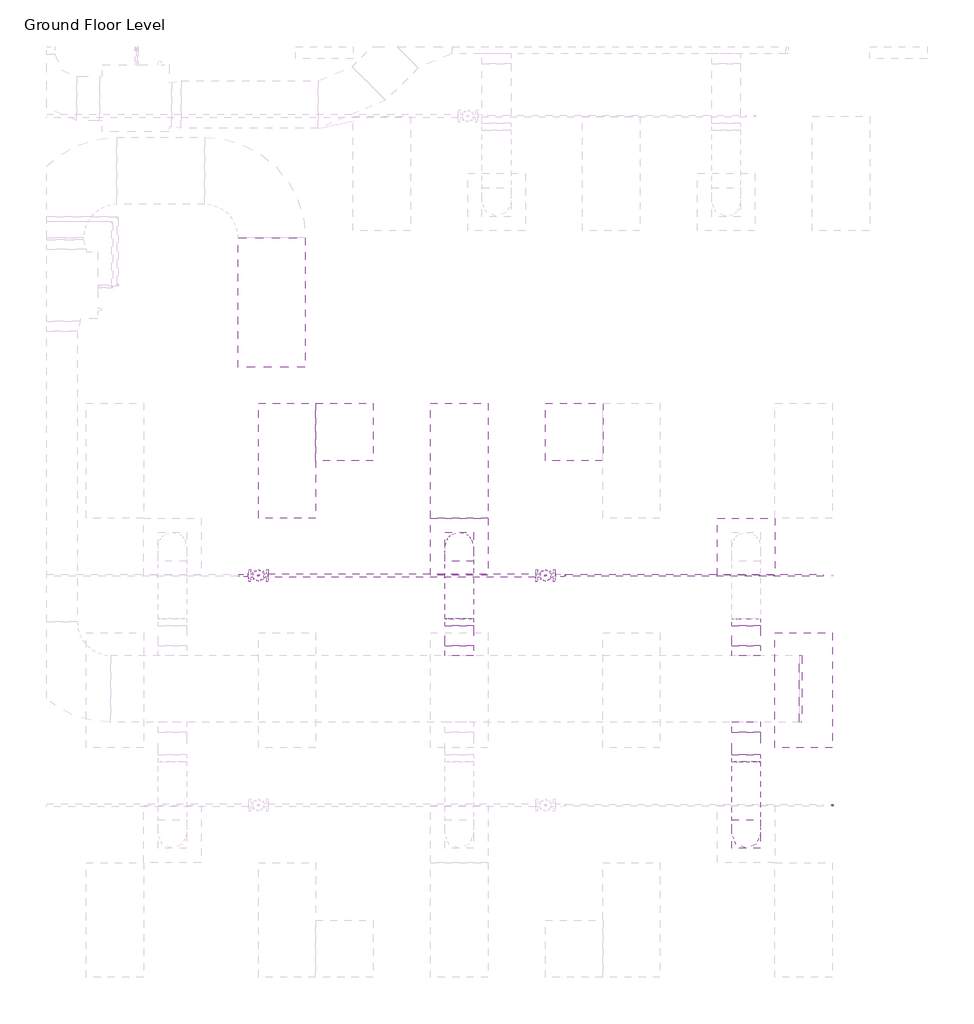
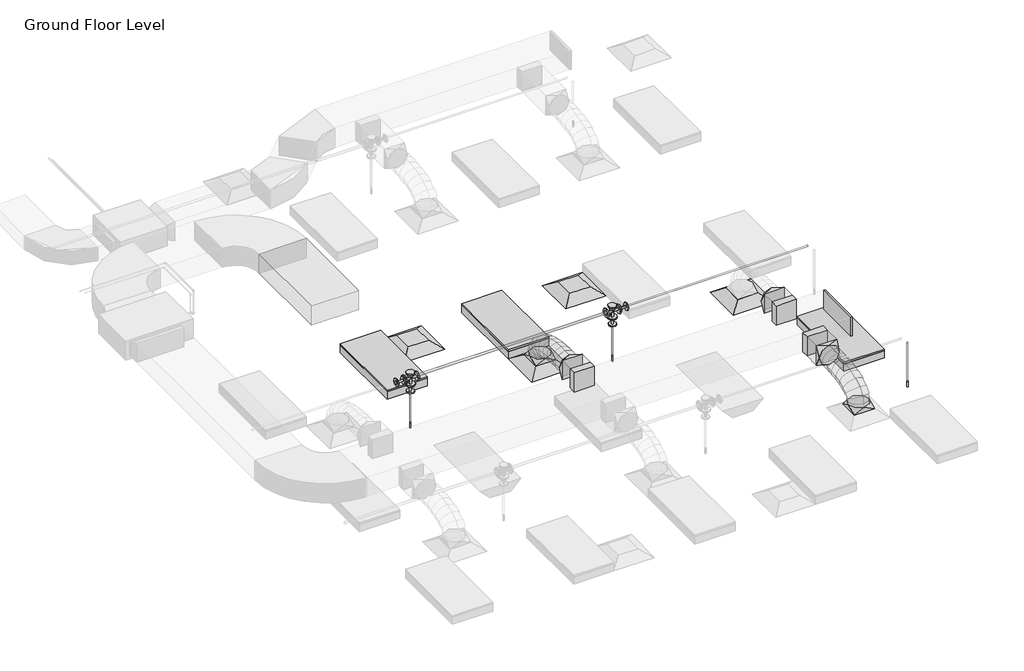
# One storey, part 32 of 74: 9 duct fittings, 6 duct segments, 6 pipe fittings, 5 pipe segments, 4 air terminals, 3 fire suppression terminals, 3 light fixtures.
"""IFC4 building model written with IfcOpenShell, lengths in millimetres."""

from ifc_helpers import new_model, si_unit, point, frame, frame_2d, origin, place, context, project, spatial, polyline, circle_curve, ellipse_curve, trimmed, segment, composite_curve, outline, extrude, transform, mapped, element, save
from ifc_brep_helpers import plane_surface, cylinder_surface, advanced_brep
from components import m_return_diffuser_600_x_600_face_300_x_300_connection_ff221211, m_rectangular_endcap_standard_7d4e98f4, m_rectangular_takeoff_standard_cb0ccb98, m_rectangular_takeoff_standard_2be5eba1, m_rectangular_to_round_transition_angle_45_degree_641efff0, m_sprinkler_dry_pendent_hosted_15_mm_dry_pendent_9bda8e11, m_troffer_light_parabolic_rectangular1_0600x1200mm_4_lamp_86473d4a, m_reducer_flanged_cs_class_150_standard_ccf252ad, m_tee_round_base_flanged_cs_class_150_standard_7e5987a1

model = new_model("IFC4")

# Units and contexts
model_context = context("Model", 3, world=origin())
ifc_project = project(units=[si_unit("LENGTHUNIT", "METRE", prefix="MILLI")], contexts=[model_context])

# Site, building, storey
site = spatial("IfcSite", under=ifc_project)
building = spatial("IfcBuilding", under=site)
storey = spatial("IfcBuildingStorey", under=building, Name="Ground Floor Level", Elevation=900.0)

# Air terminals
placement = place(None, origin())
m_return_diffuser_600_x_600_face_300_x_300_connection_shape = m_return_diffuser_600_x_600_face_300_x_300_connection_ff221211(model_context)
element("IfcAirTerminal", 1, ObjectType="M_Return Diffuser : 600 x 600 Face 300 x 300 Connection", at=placement, inside=storey, context=model_context, shape_type="MappedRepresentation", body=[
    mapped(m_return_diffuser_600_x_600_face_300_x_300_connection_shape, transform((9152.7672395, -9464.7846466, 3650.0), x_axis=(1.0, 0.0, 0.0), y_axis=(0.0, 1.0, 0.0), z_axis=(0.0, 0.0, 1.0))),
])
element("IfcAirTerminal", 2, ObjectType="M_Return Diffuser : 600 x 600 Face 300 x 300 Connection", at=placement, inside=storey, context=model_context, shape_type="MappedRepresentation", body=[
    mapped(m_return_diffuser_600_x_600_face_300_x_300_connection_shape, transform((11552.7672395, -9464.7846466, 3650.0), x_axis=(1.0, 0.0, 0.0), y_axis=(0.0, 1.0, 0.0), z_axis=(0.0, 0.0, 1.0))),
])
element("IfcAirTerminal", 3, ObjectType="M_Supply Diffuser : 600 x 600 Face 300 x 300 Connection", at=placement, inside=storey, context=model_context, shape_type="MappedRepresentation", body=[
    mapped(m_return_diffuser_600_x_600_face_300_x_300_connection_shape, transform((10352.7672395, -10664.7846466, 3650.0), x_axis=(1.0, 0.0, 0.0), y_axis=(0.0, 1.0, 0.0), z_axis=(0.0, 0.0, 1.0))),
])
element("IfcAirTerminal", 4, ObjectType="M_Supply Diffuser : 600 x 600 Face 300 x 300 Connection", at=placement, inside=storey, context=model_context, shape_type="MappedRepresentation", body=[
    mapped(m_return_diffuser_600_x_600_face_300_x_300_connection_shape, transform((13352.7672395, -10664.7846466, 3650.0), x_axis=(1.0, 0.0, 0.0), y_axis=(0.0, 1.0, 0.0), z_axis=(0.0, 0.0, 1.0))),
])

# Duct fittings
m_rectangular_endcap_standard_shape = m_rectangular_endcap_standard_7d4e98f4(model_context)
element("IfcDuctFitting", 5, ObjectType="M_Rectangular Endcap : Standard", at=placement, inside=storey, context=model_context, shape_type="MappedRepresentation", body=[
    mapped(m_rectangular_endcap_standard_shape, transform((13909.9139492, -12149.3358641, 4099.9875), x_axis=(1.0, 0.0, 0.0), y_axis=(0.0, 1.0, 0.0), z_axis=(0.0, 0.0, 1.0))),
])
m_rectangular_takeoff_standard_shape = m_rectangular_takeoff_standard_cb0ccb98(model_context)
element("IfcDuctFitting", 6, ObjectType="M_Rectangular Takeoff : Standard", at=placement, inside=storey, context=model_context, shape_type="MappedRepresentation", body=[
    mapped(m_rectangular_takeoff_standard_shape, transform((13352.7672395, -11799.3358641, 4099.9875), x_axis=(0.0, 1.0, 0.0), y_axis=(1.0, 0.0, 0.0), z_axis=(0.0, 0.0, -1.0))),
])
element("IfcDuctFitting", 7, ObjectType="M_Rectangular Takeoff : Standard", at=placement, inside=storey, context=model_context, shape_type="MappedRepresentation", body=[
    mapped(m_rectangular_takeoff_standard_shape, transform((10352.7672395, -11799.3358641, 4099.9875), x_axis=(0.0, 1.0, 0.0), y_axis=(1.0, 0.0, 0.0), z_axis=(0.0, 0.0, -1.0))),
])
m_rectangular_takeoff_standard_2_shape = m_rectangular_takeoff_standard_2be5eba1(model_context)
element("IfcDuctFitting", 8, ObjectType="M_Rectangular Takeoff : Standard", at=placement, inside=storey, context=model_context, shape_type="MappedRepresentation", body=[
    mapped(m_rectangular_takeoff_standard_2_shape, transform((13352.7672395, -12499.3358641, 4099.9875), x_axis=(0.0, -1.0, 0.0), y_axis=(-1.0, 0.0, 0.0), z_axis=(0.0, 0.0, -1.0))),
])
m_rectangular_to_round_transition_angle_45_degree_shape = m_rectangular_to_round_transition_angle_45_degree_641efff0(model_context)
element("IfcDuctFitting", 9, ObjectType="M_Rectangular to Round Transition - Angle : 45 Degree", at=placement, inside=storey, context=model_context, shape_type="MappedRepresentation", body=[
    mapped(m_rectangular_to_round_transition_angle_45_degree_shape, transform((10352.7672395, -10664.7846466, 3751.6), x_axis=(0.0, 0.0, 1.0), y_axis=(-1.0, 0.0, 0.0), z_axis=(0.0, -1.0, 0.0))),
])
element("IfcDuctFitting", 10, ObjectType="M_Rectangular to Round Transition - Angle : 45 Degree", at=placement, inside=storey, context=model_context, shape_type="MappedRepresentation", body=[
    mapped(m_rectangular_to_round_transition_angle_45_degree_shape, transform((10352.7672395, -11492.1330779, 4099.9875), x_axis=(0.0, 1.0, 0.0), y_axis=(-1.0, 0.0, 0.0), z_axis=(0.0, 0.0, 1.0))),
])
element("IfcDuctFitting", 11, ObjectType="M_Rectangular to Round Transition - Angle : 45 Degree", at=placement, inside=storey, context=model_context, shape_type="MappedRepresentation", body=[
    mapped(m_rectangular_to_round_transition_angle_45_degree_shape, transform((13352.7672395, -11492.1330779, 4099.9875), x_axis=(0.0, 1.0, 0.0), y_axis=(-1.0, 0.0, 0.0), z_axis=(0.0, 0.0, 1.0))),
])
element("IfcDuctFitting", 12, ObjectType="M_Rectangular to Round Transition - Angle : 45 Degree", at=placement, inside=storey, context=model_context, shape_type="MappedRepresentation", body=[
    mapped(m_rectangular_to_round_transition_angle_45_degree_shape, transform((13352.7672395, -13664.7846466, 3751.6), x_axis=(0.0, 0.0, 1.0), y_axis=(-1.0, 0.0, 0.0), z_axis=(0.0, -1.0, 0.0))),
])
element("IfcDuctFitting", 13, ObjectType="M_Rectangular to Round Transition - Angle : 45 Degree", at=placement, inside=storey, context=model_context, shape_type="MappedRepresentation", body=[
    mapped(m_rectangular_to_round_transition_angle_45_degree_shape, transform((13352.7672395, -12837.4362153, 4099.9875), x_axis=(0.0, -1.0, 0.0), y_axis=(1.0, 0.0, 0.0), z_axis=(0.0, 0.0, 1.0))),
])

# Duct segments
element("IfcDuctSegment", 14, ObjectType="Flex - Round", at=placement, inside=storey, context=model_context, shape_type="AdvancedBrep", body=[
    advanced_brep(
    [(10502.7672395, -10664.7846466, 3826.6), (10352.7672395, -10814.7846466, 3826.6), (10202.7672395, -10664.7846466, 3826.6), (10352.7672395, -10514.7846466, 3826.6), (10502.7672395, -10664.7846466, 3857.9382361), (10352.7672395, -10814.7846466, 3832.2943726), (10202.7672395, -10664.7846466, 3857.9382361), (10352.7672395, -10514.7846466, 3883.5820996), (10502.7672395, -10681.8009258, 3906.2508008), (10352.7672395, -10815.5381175, 3834.4336246), (10202.7672395, -10681.8009258, 3906.2508008), (10352.7672395, -10548.0637341, 3978.0679769), (10502.7672395, -10728.9857498, 3968.710741), (10352.7672395, -10833.1895095, 3857.7992917), (10202.7672395, -10728.9857498, 3968.710741), (10352.7672395, -10624.78199, 4079.6221903), (10502.7672395, -10800.5430984, 4016.0679312), (10352.7672395, -10869.4737825, 3881.8124958), (10202.7672395, -10800.5430984, 4016.0679312), (10352.7672395, -10731.6124143, 4150.3233665), (10502.7672395, -10890.6769515, 4050.4104815), (10352.7672395, -10934.2340294, 3906.4872652), (10202.7672395, -10890.6769515, 4050.4104815), (10352.7672395, -10847.1198737, 4194.3336978), (10502.7672395, -10993.591289, 4073.8265025), (10352.7672395, -11020.1487195, 3926.0353694), (10202.7672395, -10993.591289, 4073.8265025), (10352.7672395, -10967.0338584, 4221.6176356), (10502.7672395, -11103.4900905, 4088.4041045), (10352.7672395, -11118.6379564, 3939.0995418), (10202.7672395, -11103.4900905, 4088.4041045), (10352.7672395, -11088.3422246, 4237.7086671), (10502.7672395, -11214.5773359, 4096.2313978), (10352.7672395, -11222.0803018, 3946.3881695), (10202.7672395, -11214.5773359, 4096.2313978), (10352.7672395, -11207.0743701, 4246.074626), (10502.7672395, -11321.0570051, 4099.3964928), (10352.7672395, -11323.7471101, 3949.4102029), (10202.7672395, -11321.0570051, 4099.3964928), (10352.7672395, -11318.3669002, 4249.3827828), (10502.7672395, -11417.1330779, 4099.9875), (10352.7672395, -11416.2103779, 4249.9846621), (10202.7672395, -11417.1330779, 4099.9875), (10352.7672395, -11418.0557779, 3949.9903379)],
    [
        (0, 1, circle_curve(frame((10352.7672395, -10664.7846466, 3826.6), z_axis=(0.0, 0.0, -1.0), x_axis=(1.0, 0.0, 0.0)), 150.0)),
        (1, 2, circle_curve(frame((10352.7672395, -10664.7846466, 3826.6), z_axis=(0.0, 0.0, -1.0), x_axis=(1.0, 0.0, 0.0)), 150.0)),
        (2, 3, circle_curve(frame((10352.7672395, -10664.7846466, 3826.6), z_axis=(0.0, 0.0, -1.0), x_axis=(1.0, 0.0, 0.0)), 150.0)),
        (3, 0, circle_curve(frame((10352.7672395, -10664.7846466, 3826.6), z_axis=(0.0, 0.0, -1.0), x_axis=(1.0, 0.0, 0.0)), 150.0)),
        (0, 4),
        (4, 5, ellipse_curve(frame((10352.7672395, -10664.7846466, 3857.9382361), z_axis=(0.0, 0.16851424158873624, -0.9856992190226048), x_axis=(0.0, -0.9856992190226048, -0.16851424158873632)), 152.1762391, 150.0)),
        (5, 1),
        (5, 6, ellipse_curve(frame((10352.7672395, -10664.7846466, 3857.9382361), z_axis=(0.0, 0.16851424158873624, -0.9856992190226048), x_axis=(0.0, -0.9856992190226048, -0.16851424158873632)), 152.1762391, 150.0)),
        (6, 2),
        (6, 7, ellipse_curve(frame((10352.7672395, -10664.7846466, 3857.9382361), z_axis=(0.0, 0.16851424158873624, -0.9856992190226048), x_axis=(0.0, -0.9856992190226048, -0.16851424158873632)), 152.1762391, 150.0)),
        (7, 3),
        (7, 4, ellipse_curve(frame((10352.7672395, -10664.7846466, 3857.9382361), z_axis=(0.0, 0.16851424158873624, -0.9856992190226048), x_axis=(0.0, -0.9856992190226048, -0.16851424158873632)), 152.1762391, 150.0)),
        (4, 8),
        (8, 9, ellipse_curve(frame((10352.7672395, -10681.8009258, 3906.2508008), z_axis=(0.0, 0.4731028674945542, -0.8810071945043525), x_axis=(0.0, -0.8810071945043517, -0.47310286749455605)), 151.80034, 150.0)),
        (9, 5),
        (9, 10, ellipse_curve(frame((10352.7672395, -10681.8009258, 3906.2508008), z_axis=(0.0, 0.4731028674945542, -0.8810071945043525), x_axis=(0.0, -0.8810071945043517, -0.47310286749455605)), 151.80034, 150.0)),
        (10, 6),
        (10, 11, ellipse_curve(frame((10352.7672395, -10681.8009258, 3906.2508008), z_axis=(0.0, 0.4731028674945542, -0.8810071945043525), x_axis=(0.0, -0.8810071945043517, -0.47310286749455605)), 151.80034, 150.0)),
        (11, 7),
        (11, 8, ellipse_curve(frame((10352.7672395, -10681.8009258, 3906.2508008), z_axis=(0.0, 0.4731028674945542, -0.8810071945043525), x_axis=(0.0, -0.8810071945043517, -0.47310286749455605)), 151.80034, 150.0)),
        (8, 12),
        (12, 13, ellipse_curve(frame((10352.7672395, -10728.9857498, 3968.710741), z_axis=(0.0, 0.7288014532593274, -0.6847250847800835), x_axis=(0.0, -0.6847250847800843, -0.7288014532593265)), 152.1833536, 150.0)),
        (13, 9),
        (13, 14, ellipse_curve(frame((10352.7672395, -10728.9857498, 3968.710741), z_axis=(0.0, 0.7288014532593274, -0.6847250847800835), x_axis=(0.0, -0.6847250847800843, -0.7288014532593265)), 152.1833536, 150.0)),
        (14, 10),
        (14, 15, ellipse_curve(frame((10352.7672395, -10728.9857498, 3968.710741), z_axis=(0.0, 0.7288014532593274, -0.6847250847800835), x_axis=(0.0, -0.6847250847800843, -0.7288014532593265)), 152.1833536, 150.0)),
        (15, 11),
        (15, 12, ellipse_curve(frame((10352.7672395, -10728.9857498, 3968.710741), z_axis=(0.0, 0.7288014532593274, -0.6847250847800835), x_axis=(0.0, -0.6847250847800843, -0.7288014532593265)), 152.1833536, 150.0)),
        (12, 16),
        (16, 17, ellipse_curve(frame((10352.7672395, -10800.5430984, 4016.0679312), z_axis=(0.0, 0.8895974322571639, -0.45674545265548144), x_axis=(0.0, -0.45674545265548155, -0.889597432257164)), 150.9170671, 150.0)),
        (17, 13),
        (17, 18, ellipse_curve(frame((10352.7672395, -10800.5430984, 4016.0679312), z_axis=(0.0, 0.8895974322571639, -0.45674545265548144), x_axis=(0.0, -0.45674545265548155, -0.889597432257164)), 150.9170671, 150.0)),
        (18, 14),
        (18, 19, ellipse_curve(frame((10352.7672395, -10800.5430984, 4016.0679312), z_axis=(0.0, 0.8895974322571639, -0.45674545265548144), x_axis=(0.0, -0.45674545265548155, -0.889597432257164)), 150.9170671, 150.0)),
        (19, 15),
        (19, 16, ellipse_curve(frame((10352.7672395, -10800.5430984, 4016.0679312), z_axis=(0.0, 0.8895974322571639, -0.45674545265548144), x_axis=(0.0, -0.45674545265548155, -0.889597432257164)), 150.9170671, 150.0)),
        (16, 20),
        (20, 21, ellipse_curve(frame((10352.7672395, -10890.6769515, 4050.4104815), z_axis=(0.0, 0.9571277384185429, -0.28966617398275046), x_axis=(0.0, -0.2896661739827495, -0.9571277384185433)), 150.3699146, 150.0)),
        (21, 17),
        (21, 22, ellipse_curve(frame((10352.7672395, -10890.6769515, 4050.4104815), z_axis=(0.0, 0.9571277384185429, -0.28966617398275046), x_axis=(0.0, -0.2896661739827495, -0.9571277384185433)), 150.3699146, 150.0)),
        (22, 18),
        (22, 23, ellipse_curve(frame((10352.7672395, -10890.6769515, 4050.4104815), z_axis=(0.0, 0.9571277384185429, -0.28966617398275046), x_axis=(0.0, -0.2896661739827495, -0.9571277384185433)), 150.3699146, 150.0)),
        (23, 19),
        (23, 20, ellipse_curve(frame((10352.7672395, -10890.6769515, 4050.4104815), z_axis=(0.0, 0.9571277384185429, -0.28966617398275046), x_axis=(0.0, -0.2896661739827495, -0.9571277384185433)), 150.3699146, 150.0)),
        (20, 24),
        (24, 25, ellipse_curve(frame((10352.7672395, -10993.591289, 4073.8265025), z_axis=(0.0, 0.9842355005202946, -0.17686288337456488), x_axis=(0.0, -0.17686288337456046, -0.9842355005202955)), 150.1583036, 150.0)),
        (25, 21),
        (25, 26, ellipse_curve(frame((10352.7672395, -10993.591289, 4073.8265025), z_axis=(0.0, 0.9842355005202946, -0.17686288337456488), x_axis=(0.0, -0.17686288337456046, -0.9842355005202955)), 150.1583036, 150.0)),
        (26, 22),
        (26, 27, ellipse_curve(frame((10352.7672395, -10993.591289, 4073.8265025), z_axis=(0.0, 0.9842355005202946, -0.17686288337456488), x_axis=(0.0, -0.17686288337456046, -0.9842355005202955)), 150.1583036, 150.0)),
        (27, 23),
        (27, 24, ellipse_curve(frame((10352.7672395, -10993.591289, 4073.8265025), z_axis=(0.0, 0.9842355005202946, -0.17686288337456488), x_axis=(0.0, -0.17686288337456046, -0.9842355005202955)), 150.1583036, 150.0)),
        (24, 28),
        (28, 29, ellipse_curve(frame((10352.7672395, -11103.4900905, 4088.4041045), z_axis=(0.0, 0.9948927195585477, -0.10093798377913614), x_axis=(0.0, -0.1009379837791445, -0.9948927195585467)), 150.0710174, 150.0)),
        (29, 25),
        (29, 30, ellipse_curve(frame((10352.7672395, -11103.4900905, 4088.4041045), z_axis=(0.0, 0.9948927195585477, -0.10093798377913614), x_axis=(0.0, -0.1009379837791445, -0.9948927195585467)), 150.0710174, 150.0)),
        (30, 26),
        (30, 31, ellipse_curve(frame((10352.7672395, -11103.4900905, 4088.4041045), z_axis=(0.0, 0.9948927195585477, -0.10093798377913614), x_axis=(0.0, -0.1009379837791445, -0.9948927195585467)), 150.0710174, 150.0)),
        (31, 27),
        (31, 28, ellipse_curve(frame((10352.7672395, -11103.4900905, 4088.4041045), z_axis=(0.0, 0.9948927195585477, -0.10093798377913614), x_axis=(0.0, -0.1009379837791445, -0.9948927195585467)), 150.0710174, 150.0)),
        (28, 32),
        (32, 33, ellipse_curve(frame((10352.7672395, -11214.5773359, 4096.2313978), z_axis=(0.0, 0.9987487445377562, -0.05000945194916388), x_axis=(0.0, -0.05000945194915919, -0.9987487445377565)), 150.0309553, 150.0)),
        (33, 29),
        (33, 34, ellipse_curve(frame((10352.7672395, -11214.5773359, 4096.2313978), z_axis=(0.0, 0.9987487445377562, -0.05000945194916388), x_axis=(0.0, -0.05000945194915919, -0.9987487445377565)), 150.0309553, 150.0)),
        (34, 30),
        (34, 35, ellipse_curve(frame((10352.7672395, -11214.5773359, 4096.2313978), z_axis=(0.0, 0.9987487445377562, -0.05000945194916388), x_axis=(0.0, -0.05000945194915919, -0.9987487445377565)), 150.0309553, 150.0)),
        (35, 31),
        (35, 32, ellipse_curve(frame((10352.7672395, -11214.5773359, 4096.2313978), z_axis=(0.0, 0.9987487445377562, -0.05000945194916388), x_axis=(0.0, -0.05000945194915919, -0.9987487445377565)), 150.0309553, 150.0)),
        (32, 36),
        (36, 37, ellipse_curve(frame((10352.7672395, -11321.0570051, 4099.3964928), z_axis=(0.0, 0.9998391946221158, -0.017932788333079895), x_axis=(0.0, -0.017932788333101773, -0.9998391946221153)), 150.0104124, 150.0)),
        (37, 33),
        (37, 38, ellipse_curve(frame((10352.7672395, -11321.0570051, 4099.3964928), z_axis=(0.0, 0.9998391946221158, -0.017932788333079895), x_axis=(0.0, -0.017932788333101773, -0.9998391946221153)), 150.0104124, 150.0)),
        (38, 34),
        (38, 39, ellipse_curve(frame((10352.7672395, -11321.0570051, 4099.3964928), z_axis=(0.0, 0.9998391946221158, -0.017932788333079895), x_axis=(0.0, -0.017932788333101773, -0.9998391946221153)), 150.0104124, 150.0)),
        (39, 35),
        (39, 36, ellipse_curve(frame((10352.7672395, -11321.0570051, 4099.3964928), z_axis=(0.0, 0.9998391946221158, -0.017932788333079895), x_axis=(0.0, -0.017932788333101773, -0.9998391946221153)), 150.0104124, 150.0)),
        (40, 41, circle_curve(frame((10352.7672395, -11417.1330779, 4099.9875), z_axis=(0.0, -0.999981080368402, 0.0061513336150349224), x_axis=(1.0, 0.0, 0.0)), 150.0)),
        (41, 42, circle_curve(frame((10352.7672395, -11417.1330779, 4099.9875), z_axis=(0.0, -0.999981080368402, 0.0061513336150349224), x_axis=(1.0, 0.0, 0.0)), 150.0)),
        (42, 43, circle_curve(frame((10352.7672395, -11417.1330779, 4099.9875), z_axis=(0.0, -0.999981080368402, 0.0061513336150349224), x_axis=(1.0, 0.0, 0.0)), 150.0)),
        (43, 40, circle_curve(frame((10352.7672395, -11417.1330779, 4099.9875), z_axis=(0.0, -0.999981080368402, 0.0061513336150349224), x_axis=(1.0, 0.0, 0.0)), 150.0)),
        (36, 40),
        (43, 37),
        (42, 38),
        (41, 39),
    ],
    [
        plane_surface(frame((10352.7672395, -10814.7846466, 3826.6), z_axis=(0.0, 0.0, -1.0), x_axis=(1.0, 0.0, 0.0))),
        cylinder_surface(frame((10352.7672395, -10664.7846466, 3826.6), z_axis=(0.0, 0.0, -1.0), x_axis=(1.0, 0.0, 0.0)), 150.0),
        cylinder_surface(frame((10352.7672395, -10664.7846466, 3857.9382361), z_axis=(0.0, 0.3322087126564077, -0.943205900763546), x_axis=(1.0, 0.0, 0.0)), 150.0),
        cylinder_surface(frame((10352.7672395, -10681.8009258, 3906.2508008), z_axis=(0.0, 0.6027750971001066, -0.797911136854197), x_axis=(1.0, 0.0, 0.0)), 150.0),
        cylinder_surface(frame((10352.7672395, -10728.9857498, 3968.710741), z_axis=(0.0, 0.8339157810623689, -0.5518917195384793), x_axis=(1.0, 0.0, 0.0)), 150.0),
        cylinder_surface(frame((10352.7672395, -10800.5430984, 4016.0679312), z_axis=(0.0, 0.9344675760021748, -0.3560482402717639), x_axis=(1.0, 0.0, 0.0)), 150.0),
        cylinder_surface(frame((10352.7672395, -10890.6769515, 4050.4104815), z_axis=(0.0, 0.9750787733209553, -0.22185893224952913), x_axis=(1.0, 0.0, 0.0)), 150.0),
        cylinder_surface(frame((10352.7672395, -10993.591289, 4073.8265025), z_axis=(0.0, 0.9913169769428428, -0.13149392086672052), x_axis=(1.0, 0.0, 0.0)), 150.0),
        cylinder_surface(frame((10352.7672395, -11103.4900905, 4088.4041045), z_axis=(0.0, 0.9975268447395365, -0.07028651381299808), x_axis=(1.0, 0.0, 0.0)), 150.0),
        cylinder_surface(frame((10352.7672395, -11214.5773359, 4096.2313978), z_axis=(0.0, 0.999558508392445, -0.029711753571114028), x_axis=(1.0, 0.0, 0.0)), 150.0),
        plane_surface(frame((10352.7672395, -11418.0557779, 3949.9903379), z_axis=(0.0, -0.999981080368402, 0.006151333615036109), x_axis=(1.0, 0.0, 0.0))),
        cylinder_surface(frame((10352.7672395, -11321.0570051, 4099.3964928), z_axis=(0.0, 0.999981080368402, -0.0061513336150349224), x_axis=(1.0, 0.0, 0.0)), 150.0),
    ],
    [
        (0, [[1, 2, 3, 4]]),
        (1, [[-1, 5, 6, 7]]),
        (1, [[-2, -7, 8, 9]]),
        (1, [[-3, -9, 10, 11]]),
        (1, [[-4, -11, 12, -5]]),
        (2, [[-6, 13, 14, 15]]),
        (2, [[-8, -15, 16, 17]]),
        (2, [[-10, -17, 18, 19]]),
        (2, [[-12, -19, 20, -13]]),
        (3, [[-14, 21, 22, 23]]),
        (3, [[-16, -23, 24, 25]]),
        (3, [[-18, -25, 26, 27]]),
        (3, [[-20, -27, 28, -21]]),
        (4, [[-22, 29, 30, 31]]),
        (4, [[-24, -31, 32, 33]]),
        (4, [[-26, -33, 34, 35]]),
        (4, [[-28, -35, 36, -29]]),
        (5, [[-30, 37, 38, 39]]),
        (5, [[-32, -39, 40, 41]]),
        (5, [[-34, -41, 42, 43]]),
        (5, [[-36, -43, 44, -37]]),
        (6, [[-38, 45, 46, 47]]),
        (6, [[-40, -47, 48, 49]]),
        (6, [[-42, -49, 50, 51]]),
        (6, [[-44, -51, 52, -45]]),
        (7, [[-46, 53, 54, 55]]),
        (7, [[-48, -55, 56, 57]]),
        (7, [[-50, -57, 58, 59]]),
        (7, [[-52, -59, 60, -53]]),
        (8, [[-54, 61, 62, 63]]),
        (8, [[-56, -63, 64, 65]]),
        (8, [[-58, -65, 66, 67]]),
        (8, [[-60, -67, 68, -61]]),
        (9, [[-62, 69, 70, 71]]),
        (9, [[-64, -71, 72, 73]]),
        (9, [[-66, -73, 74, 75]]),
        (9, [[-68, -75, 76, -69]]),
        (10, [[77, 78, 79, 80]]),
        (11, [[-70, 81, -80, 82]]),
        (11, [[-72, -82, -79, 83]]),
        (11, [[-74, -83, -78, 84]]),
        (11, [[-76, -84, -77, -81]]),
    ],
),
])
element("IfcDuctSegment", 15, ObjectType="Flex - Round", at=placement, inside=storey, context=model_context, shape_type="AdvancedBrep", body=[
    advanced_brep(
    [(13502.7672395, -13664.7846466, 3826.6), (13352.7672395, -13814.7846466, 3826.6), (13202.7672395, -13664.7846466, 3826.6), (13352.7672395, -13514.7846466, 3826.6), (13502.7672395, -13664.7846466, 3857.9382361), (13352.7672395, -13814.7846466, 3883.5820996), (13202.7672395, -13664.7846466, 3857.9382361), (13352.7672395, -13514.7846466, 3832.2943726), (13502.7672395, -13647.7683675, 3906.2508008), (13352.7672395, -13781.5055592, 3978.0679769), (13202.7672395, -13647.7683675, 3906.2508008), (13352.7672395, -13514.0311758, 3834.4336246), (13502.7672395, -13600.5835435, 3968.710741), (13352.7672395, -13704.7873032, 4079.6221903), (13202.7672395, -13600.5835435, 3968.710741), (13352.7672395, -13496.3797837, 3857.7992917), (13502.7672395, -13529.0261948, 4016.0679312), (13352.7672395, -13597.9568789, 4150.3233665), (13202.7672395, -13529.0261948, 4016.0679312), (13352.7672395, -13460.0955107, 3881.8124958), (13502.7672395, -13438.8923417, 4050.4104815), (13352.7672395, -13482.4494195, 4194.3336978), (13202.7672395, -13438.8923417, 4050.4104815), (13352.7672395, -13395.3352638, 3906.4872652), (13502.7672395, -13335.9780043, 4073.8265025), (13352.7672395, -13362.5354348, 4221.6176356), (13202.7672395, -13335.9780043, 4073.8265025), (13352.7672395, -13309.4205737, 3926.0353694), (13502.7672395, -13226.0792027, 4088.4041045), (13352.7672395, -13241.2270687, 4237.7086671), (13202.7672395, -13226.0792027, 4088.4041045), (13352.7672395, -13210.9313368, 3939.0995418), (13502.7672395, -13114.9919573, 4096.2313978), (13352.7672395, -13122.4949231, 4246.074626), (13202.7672395, -13114.9919573, 4096.2313978), (13352.7672395, -13107.4889914, 3946.3881695), (13502.7672395, -13008.5122881, 4099.3964928), (13352.7672395, -13011.2023931, 4249.3827828), (13202.7672395, -13008.5122881, 4099.3964928), (13352.7672395, -13005.8221831, 3949.4102029), (13502.7672395, -12912.4362153, 4099.9875), (13352.7672395, -12911.5135153, 3949.9903379), (13202.7672395, -12912.4362153, 4099.9875), (13352.7672395, -12913.3589154, 4249.9846621)],
    [
        (0, 1, circle_curve(frame((13352.7672395, -13664.7846466, 3826.6), z_axis=(0.0, 0.0, -1.0), x_axis=(1.0, 0.0, 0.0)), 150.0)),
        (1, 2, circle_curve(frame((13352.7672395, -13664.7846466, 3826.6), z_axis=(0.0, 0.0, -1.0), x_axis=(1.0, 0.0, 0.0)), 150.0)),
        (2, 3, circle_curve(frame((13352.7672395, -13664.7846466, 3826.6), z_axis=(0.0, 0.0, -1.0), x_axis=(1.0, 0.0, 0.0)), 150.0)),
        (3, 0, circle_curve(frame((13352.7672395, -13664.7846466, 3826.6), z_axis=(0.0, 0.0, -1.0), x_axis=(1.0, 0.0, 0.0)), 150.0)),
        (0, 4),
        (4, 5, ellipse_curve(frame((13352.7672395, -13664.7846466, 3857.9382361), z_axis=(0.0, -0.16851424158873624, -0.9856992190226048), x_axis=(0.0, 0.9856992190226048, -0.16851424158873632)), 152.1762391, 150.0)),
        (5, 1),
        (5, 6, ellipse_curve(frame((13352.7672395, -13664.7846466, 3857.9382361), z_axis=(0.0, -0.16851424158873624, -0.9856992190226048), x_axis=(0.0, 0.9856992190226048, -0.16851424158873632)), 152.1762391, 150.0)),
        (6, 2),
        (6, 7, ellipse_curve(frame((13352.7672395, -13664.7846466, 3857.9382361), z_axis=(0.0, -0.16851424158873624, -0.9856992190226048), x_axis=(0.0, 0.9856992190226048, -0.16851424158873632)), 152.1762391, 150.0)),
        (7, 3),
        (7, 4, ellipse_curve(frame((13352.7672395, -13664.7846466, 3857.9382361), z_axis=(0.0, -0.16851424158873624, -0.9856992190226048), x_axis=(0.0, 0.9856992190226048, -0.16851424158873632)), 152.1762391, 150.0)),
        (4, 8),
        (8, 9, ellipse_curve(frame((13352.7672395, -13647.7683675, 3906.2508008), z_axis=(0.0, -0.4731028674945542, -0.8810071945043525), x_axis=(0.0, 0.8810071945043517, -0.47310286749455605)), 151.80034, 150.0)),
        (9, 5),
        (9, 10, ellipse_curve(frame((13352.7672395, -13647.7683675, 3906.2508008), z_axis=(0.0, -0.4731028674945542, -0.8810071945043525), x_axis=(0.0, 0.8810071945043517, -0.47310286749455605)), 151.80034, 150.0)),
        (10, 6),
        (10, 11, ellipse_curve(frame((13352.7672395, -13647.7683675, 3906.2508008), z_axis=(0.0, -0.4731028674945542, -0.8810071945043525), x_axis=(0.0, 0.8810071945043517, -0.47310286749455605)), 151.80034, 150.0)),
        (11, 7),
        (11, 8, ellipse_curve(frame((13352.7672395, -13647.7683675, 3906.2508008), z_axis=(0.0, -0.4731028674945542, -0.8810071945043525), x_axis=(0.0, 0.8810071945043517, -0.47310286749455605)), 151.80034, 150.0)),
        (8, 12),
        (12, 13, ellipse_curve(frame((13352.7672395, -13600.5835435, 3968.710741), z_axis=(0.0, -0.728801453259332, -0.6847250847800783), x_axis=(0.0, 0.6847250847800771, -0.7288014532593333)), 152.1833536, 150.0)),
        (13, 9),
        (13, 14, ellipse_curve(frame((13352.7672395, -13600.5835435, 3968.710741), z_axis=(0.0, -0.728801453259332, -0.6847250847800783), x_axis=(0.0, 0.6847250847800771, -0.7288014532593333)), 152.1833536, 150.0)),
        (14, 10),
        (14, 15, ellipse_curve(frame((13352.7672395, -13600.5835435, 3968.710741), z_axis=(0.0, -0.728801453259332, -0.6847250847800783), x_axis=(0.0, 0.6847250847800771, -0.7288014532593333)), 152.1833536, 150.0)),
        (15, 11),
        (15, 12, ellipse_curve(frame((13352.7672395, -13600.5835435, 3968.710741), z_axis=(0.0, -0.728801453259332, -0.6847250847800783), x_axis=(0.0, 0.6847250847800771, -0.7288014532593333)), 152.1833536, 150.0)),
        (12, 16),
        (16, 17, ellipse_curve(frame((13352.7672395, -13529.0261948, 4016.0679312), z_axis=(0.0, -0.889597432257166, -0.45674545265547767), x_axis=(0.0, 0.4567454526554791, -0.8895974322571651)), 150.9170671, 150.0)),
        (17, 13),
        (17, 18, ellipse_curve(frame((13352.7672395, -13529.0261948, 4016.0679312), z_axis=(0.0, -0.889597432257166, -0.45674545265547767), x_axis=(0.0, 0.4567454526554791, -0.8895974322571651)), 150.9170671, 150.0)),
        (18, 14),
        (18, 19, ellipse_curve(frame((13352.7672395, -13529.0261948, 4016.0679312), z_axis=(0.0, -0.889597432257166, -0.45674545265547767), x_axis=(0.0, 0.4567454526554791, -0.8895974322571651)), 150.9170671, 150.0)),
        (19, 15),
        (19, 16, ellipse_curve(frame((13352.7672395, -13529.0261948, 4016.0679312), z_axis=(0.0, -0.889597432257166, -0.45674545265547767), x_axis=(0.0, 0.4567454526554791, -0.8895974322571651)), 150.9170671, 150.0)),
        (16, 20),
        (20, 21, ellipse_curve(frame((13352.7672395, -13438.8923417, 4050.4104815), z_axis=(0.0, -0.9571277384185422, -0.28966617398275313), x_axis=(0.0, 0.28966617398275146, -0.9571277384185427)), 150.3699146, 150.0)),
        (21, 17),
        (21, 22, ellipse_curve(frame((13352.7672395, -13438.8923417, 4050.4104815), z_axis=(0.0, -0.9571277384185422, -0.28966617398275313), x_axis=(0.0, 0.28966617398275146, -0.9571277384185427)), 150.3699146, 150.0)),
        (22, 18),
        (22, 23, ellipse_curve(frame((13352.7672395, -13438.8923417, 4050.4104815), z_axis=(0.0, -0.9571277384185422, -0.28966617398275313), x_axis=(0.0, 0.28966617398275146, -0.9571277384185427)), 150.3699146, 150.0)),
        (23, 19),
        (23, 20, ellipse_curve(frame((13352.7672395, -13438.8923417, 4050.4104815), z_axis=(0.0, -0.9571277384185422, -0.28966617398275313), x_axis=(0.0, 0.28966617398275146, -0.9571277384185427)), 150.3699146, 150.0)),
        (20, 24),
        (24, 25, ellipse_curve(frame((13352.7672395, -13335.9780043, 4073.8265025), z_axis=(0.0, -0.9842355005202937, -0.17686288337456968), x_axis=(0.0, 0.17686288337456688, -0.9842355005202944)), 150.1583036, 150.0)),
        (25, 21),
        (25, 26, ellipse_curve(frame((13352.7672395, -13335.9780043, 4073.8265025), z_axis=(0.0, -0.9842355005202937, -0.17686288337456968), x_axis=(0.0, 0.17686288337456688, -0.9842355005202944)), 150.1583036, 150.0)),
        (26, 22),
        (26, 27, ellipse_curve(frame((13352.7672395, -13335.9780043, 4073.8265025), z_axis=(0.0, -0.9842355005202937, -0.17686288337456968), x_axis=(0.0, 0.17686288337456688, -0.9842355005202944)), 150.1583036, 150.0)),
        (27, 23),
        (27, 24, ellipse_curve(frame((13352.7672395, -13335.9780043, 4073.8265025), z_axis=(0.0, -0.9842355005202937, -0.17686288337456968), x_axis=(0.0, 0.17686288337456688, -0.9842355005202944)), 150.1583036, 150.0)),
        (24, 28),
        (28, 29, ellipse_curve(frame((13352.7672395, -13226.0792027, 4088.4041045), z_axis=(0.0, -0.9948927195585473, -0.10093798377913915), x_axis=(0.0, 0.10093798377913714, -0.9948927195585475)), 150.0710174, 150.0)),
        (29, 25),
        (29, 30, ellipse_curve(frame((13352.7672395, -13226.0792027, 4088.4041045), z_axis=(0.0, -0.9948927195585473, -0.10093798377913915), x_axis=(0.0, 0.10093798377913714, -0.9948927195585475)), 150.0710174, 150.0)),
        (30, 26),
        (30, 31, ellipse_curve(frame((13352.7672395, -13226.0792027, 4088.4041045), z_axis=(0.0, -0.9948927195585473, -0.10093798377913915), x_axis=(0.0, 0.10093798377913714, -0.9948927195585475)), 150.0710174, 150.0)),
        (31, 27),
        (31, 28, ellipse_curve(frame((13352.7672395, -13226.0792027, 4088.4041045), z_axis=(0.0, -0.9948927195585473, -0.10093798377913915), x_axis=(0.0, 0.10093798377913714, -0.9948927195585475)), 150.0710174, 150.0)),
        (28, 32),
        (32, 33, ellipse_curve(frame((13352.7672395, -13114.9919573, 4096.2313978), z_axis=(0.0, -0.9987487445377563, -0.050009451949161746), x_axis=(0.0, 0.05000945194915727, -0.9987487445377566)), 150.0309553, 150.0)),
        (33, 29),
        (33, 34, ellipse_curve(frame((13352.7672395, -13114.9919573, 4096.2313978), z_axis=(0.0, -0.9987487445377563, -0.050009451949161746), x_axis=(0.0, 0.05000945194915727, -0.9987487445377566)), 150.0309553, 150.0)),
        (34, 30),
        (34, 35, ellipse_curve(frame((13352.7672395, -13114.9919573, 4096.2313978), z_axis=(0.0, -0.9987487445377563, -0.050009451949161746), x_axis=(0.0, 0.05000945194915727, -0.9987487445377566)), 150.0309553, 150.0)),
        (35, 31),
        (35, 32, ellipse_curve(frame((13352.7672395, -13114.9919573, 4096.2313978), z_axis=(0.0, -0.9987487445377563, -0.050009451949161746), x_axis=(0.0, 0.05000945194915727, -0.9987487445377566)), 150.0309553, 150.0)),
        (32, 36),
        (36, 37, ellipse_curve(frame((13352.7672395, -13008.5122881, 4099.3964928), z_axis=(0.0, -0.9998391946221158, -0.017932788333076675), x_axis=(0.0, 0.01793278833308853, -0.9998391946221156)), 150.0104124, 150.0)),
        (37, 33),
        (37, 38, ellipse_curve(frame((13352.7672395, -13008.5122881, 4099.3964928), z_axis=(0.0, -0.9998391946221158, -0.017932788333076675), x_axis=(0.0, 0.01793278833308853, -0.9998391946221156)), 150.0104124, 150.0)),
        (38, 34),
        (38, 39, ellipse_curve(frame((13352.7672395, -13008.5122881, 4099.3964928), z_axis=(0.0, -0.9998391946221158, -0.017932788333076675), x_axis=(0.0, 0.01793278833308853, -0.9998391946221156)), 150.0104124, 150.0)),
        (39, 35),
        (39, 36, ellipse_curve(frame((13352.7672395, -13008.5122881, 4099.3964928), z_axis=(0.0, -0.9998391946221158, -0.017932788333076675), x_axis=(0.0, 0.01793278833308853, -0.9998391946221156)), 150.0104124, 150.0)),
        (40, 41, circle_curve(frame((13352.7672395, -12912.4362153, 4099.9875), z_axis=(0.0, 0.9999810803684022, 0.0061513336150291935), x_axis=(1.0, 0.0, 0.0)), 150.0)),
        (41, 42, circle_curve(frame((13352.7672395, -12912.4362153, 4099.9875), z_axis=(0.0, 0.9999810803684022, 0.0061513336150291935), x_axis=(1.0, 0.0, 0.0)), 150.0)),
        (42, 43, circle_curve(frame((13352.7672395, -12912.4362153, 4099.9875), z_axis=(0.0, 0.9999810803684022, 0.0061513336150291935), x_axis=(1.0, 0.0, 0.0)), 150.0)),
        (43, 40, circle_curve(frame((13352.7672395, -12912.4362153, 4099.9875), z_axis=(0.0, 0.9999810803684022, 0.0061513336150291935), x_axis=(1.0, 0.0, 0.0)), 150.0)),
        (36, 40),
        (43, 37),
        (42, 38),
        (41, 39),
    ],
    [
        plane_surface(frame((13352.7672395, -13814.7846466, 3826.6), z_axis=(0.0, 0.0, -1.0), x_axis=(1.0, 0.0, 0.0))),
        cylinder_surface(frame((13352.7672395, -13664.7846466, 3826.6), z_axis=(0.0, 0.0, -1.0), x_axis=(1.0, 0.0, 0.0)), 150.0),
        cylinder_surface(frame((13352.7672395, -13664.7846466, 3857.9382361), z_axis=(0.0, -0.3322087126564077, -0.943205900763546), x_axis=(1.0, 0.0, 0.0)), 150.0),
        cylinder_surface(frame((13352.7672395, -13647.7683675, 3906.2508008), z_axis=(0.0, -0.6027750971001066, -0.797911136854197), x_axis=(1.0, 0.0, 0.0)), 150.0),
        cylinder_surface(frame((13352.7672395, -13600.5835435, 3968.710741), z_axis=(0.0, -0.8339157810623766, -0.5518917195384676), x_axis=(1.0, 0.0, 0.0)), 150.0),
        cylinder_surface(frame((13352.7672395, -13529.0261948, 4016.0679312), z_axis=(0.0, -0.9344675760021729, -0.3560482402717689), x_axis=(1.0, 0.0, 0.0)), 150.0),
        cylinder_surface(frame((13352.7672395, -13438.8923417, 4050.4104815), z_axis=(0.0, -0.9750787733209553, -0.2218589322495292), x_axis=(1.0, 0.0, 0.0)), 150.0),
        cylinder_surface(frame((13352.7672395, -13335.9780043, 4073.8265025), z_axis=(0.0, -0.9913169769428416, -0.13149392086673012), x_axis=(1.0, 0.0, 0.0)), 150.0),
        cylinder_surface(frame((13352.7672395, -13226.0792027, 4088.4041045), z_axis=(0.0, -0.9975268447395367, -0.07028651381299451), x_axis=(1.0, 0.0, 0.0)), 150.0),
        cylinder_surface(frame((13352.7672395, -13114.9919573, 4096.2313978), z_axis=(0.0, -0.999558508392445, -0.02971175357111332), x_axis=(1.0, 0.0, 0.0)), 150.0),
        plane_surface(frame((13352.7672395, -12913.3589154, 4249.9846621), z_axis=(0.0, 0.9999810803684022, 0.006151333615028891), x_axis=(1.0, 0.0, 0.0))),
        cylinder_surface(frame((13352.7672395, -13008.5122881, 4099.3964928), z_axis=(0.0, -0.9999810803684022, -0.0061513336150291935), x_axis=(1.0, 0.0, 0.0)), 150.0),
    ],
    [
        (0, [[1, 2, 3, 4]]),
        (1, [[-1, 5, 6, 7]]),
        (1, [[-2, -7, 8, 9]]),
        (1, [[-3, -9, 10, 11]]),
        (1, [[-4, -11, 12, -5]]),
        (2, [[-6, 13, 14, 15]]),
        (2, [[-8, -15, 16, 17]]),
        (2, [[-10, -17, 18, 19]]),
        (2, [[-12, -19, 20, -13]]),
        (3, [[-14, 21, 22, 23]]),
        (3, [[-16, -23, 24, 25]]),
        (3, [[-18, -25, 26, 27]]),
        (3, [[-20, -27, 28, -21]]),
        (4, [[-22, 29, 30, 31]]),
        (4, [[-24, -31, 32, 33]]),
        (4, [[-26, -33, 34, 35]]),
        (4, [[-28, -35, 36, -29]]),
        (5, [[-30, 37, 38, 39]]),
        (5, [[-32, -39, 40, 41]]),
        (5, [[-34, -41, 42, 43]]),
        (5, [[-36, -43, 44, -37]]),
        (6, [[-38, 45, 46, 47]]),
        (6, [[-40, -47, 48, 49]]),
        (6, [[-42, -49, 50, 51]]),
        (6, [[-44, -51, 52, -45]]),
        (7, [[-46, 53, 54, 55]]),
        (7, [[-48, -55, 56, 57]]),
        (7, [[-50, -57, 58, 59]]),
        (7, [[-52, -59, 60, -53]]),
        (8, [[-54, 61, 62, 63]]),
        (8, [[-56, -63, 64, 65]]),
        (8, [[-58, -65, 66, 67]]),
        (8, [[-60, -67, 68, -61]]),
        (9, [[-62, 69, 70, 71]]),
        (9, [[-64, -71, 72, 73]]),
        (9, [[-66, -73, 74, 75]]),
        (9, [[-68, -75, 76, -69]]),
        (10, [[77, 78, 79, 80]]),
        (11, [[-70, 81, -80, 82]]),
        (11, [[-72, -82, -79, 83]]),
        (11, [[-74, -83, -78, 84]]),
        (11, [[-76, -84, -77, -81]]),
    ],
),
])
element("IfcDuctSegment", 16, ObjectType="Radius Elbows / Taps", at=placement, inside=storey, context=model_context, shape_type="SweptSolid", body=[
    extrude(outline(polyline([(8043.4139492, -7438.5358641), (8743.4139492, -7438.5358641), (8743.4139492, -8789.6566353), (8043.4139492, -8789.6566353), (8043.4139492, -7438.5358641)])), frame((0.0, 0.0, 3925.2875), z_axis=(0.0, 0.0, 1.0), x_axis=(1.0, 0.0, 0.0)), (0.0, 0.0, 1.0), 300.0),
])
element("IfcDuctSegment", 17, ObjectType="Radius Elbows / Taps", at=placement, inside=storey, context=model_context, shape_type="SweptSolid", body=[
    extrude(outline(polyline([(13202.7672395, -12600.9358641), (13502.7672395, -12600.9358641), (13502.7672395, -12837.4362153), (13202.7672395, -12837.4362153), (13202.7672395, -12600.9358641)])), frame((0.0, 0.0, 3949.9875), z_axis=(0.0, 0.0, 1.0), x_axis=(1.0, 0.0, 0.0)), (0.0, 0.0, 1.0), 300.0),
])
element("IfcDuctSegment", 18, ObjectType="Radius Elbows / Taps", at=placement, inside=storey, context=model_context, shape_type="SweptSolid", body=[
    extrude(outline(polyline([(13502.7672395, -11697.7358641), (13202.7672395, -11697.7358641), (13202.7672395, -11492.1330779), (13502.7672395, -11492.1330779), (13502.7672395, -11697.7358641)])), frame((0.0, 0.0, 3949.9875), z_axis=(0.0, 0.0, 1.0), x_axis=(1.0, 0.0, 0.0)), (0.0, 0.0, 1.0), 300.0),
])
element("IfcDuctSegment", 19, ObjectType="Radius Elbows / Taps", at=placement, inside=storey, context=model_context, shape_type="SweptSolid", body=[
    extrude(outline(polyline([(10502.7672395, -11697.7358641), (10202.7672395, -11697.7358641), (10202.7672395, -11492.1330779), (10502.7672395, -11492.1330779), (10502.7672395, -11697.7358641)])), frame((0.0, 0.0, 3949.9875), z_axis=(0.0, 0.0, 1.0), x_axis=(1.0, 0.0, 0.0)), (0.0, 0.0, 1.0), 300.0),
])

# Fire suppression terminals
m_sprinkler_dry_pendent_hosted_15_mm_dry_pendent_shape = m_sprinkler_dry_pendent_hosted_15_mm_dry_pendent_9bda8e11(model_context)
element("IfcFireSuppressionTerminal", 20, ObjectType="M_Sprinkler - Dry - Pendent - Hosted : 15 mm Dry Pendent", at=placement, inside=storey, context=model_context, shape_type="MappedRepresentation", body=[
    mapped(m_sprinkler_dry_pendent_hosted_15_mm_dry_pendent_shape, transform((8252.7672395, -10964.7846466, 3650.0), x_axis=(1.0, 0.0, 0.0), y_axis=(0.0, -1.0, 0.0), z_axis=(0.0, 0.0, -1.0))),
])
element("IfcFireSuppressionTerminal", 21, ObjectType="M_Sprinkler - Dry - Pendent - Hosted : 15 mm Dry Pendent", at=placement, inside=storey, context=model_context, shape_type="MappedRepresentation", body=[
    mapped(m_sprinkler_dry_pendent_hosted_15_mm_dry_pendent_shape, transform((11252.7672395, -10964.7846466, 3650.0), x_axis=(1.0, 0.0, 0.0), y_axis=(0.0, -1.0, 0.0), z_axis=(0.0, 0.0, -1.0))),
])
element("IfcFireSuppressionTerminal", 22, ObjectType="M_Sprinkler - Dry - Pendent - Hosted : 15 mm Dry Pendent", at=placement, inside=storey, context=model_context, shape_type="MappedRepresentation", body=[
    mapped(m_sprinkler_dry_pendent_hosted_15_mm_dry_pendent_shape, transform((14252.7672395, -13364.7846466, 3650.0), x_axis=(1.0, 0.0, 0.0), y_axis=(0.0, -1.0, 0.0), z_axis=(0.0, 0.0, -1.0))),
])

# Light fixtures
m_troffer_light_parabolic_rectangular1_0600x1200mm_4_lamp_shape = m_troffer_light_parabolic_rectangular1_0600x1200mm_4_lamp_86473d4a(model_context)
element("IfcLightFixture", 23, ObjectType="M_Troffer Light - Parabolic Rectangular1 : 0600x1200mm(4 Lamp) - 277V 2", at=placement, inside=storey, context=model_context, shape_type="MappedRepresentation", body=[
    mapped(m_troffer_light_parabolic_rectangular1_0600x1200mm_4_lamp_shape, transform((8493.3013074, -9746.081145, 3650.0), x_axis=(0.0, 1.0, 0.0), y_axis=(-1.0, 0.0, 0.0), z_axis=(0.0, 0.0, 1.0))),
])
element("IfcLightFixture", 24, ObjectType="M_Troffer Light - Parabolic Rectangular1 : 0600x1200mm(4 Lamp) - 277V 2", at=placement, inside=storey, context=model_context, shape_type="MappedRepresentation", body=[
    mapped(m_troffer_light_parabolic_rectangular1_0600x1200mm_4_lamp_shape, transform((10293.3013074, -9746.081145, 3650.0), x_axis=(0.0, 1.0, 0.0), y_axis=(-1.0, 0.0, 0.0), z_axis=(0.0, 0.0, 1.0))),
])
element("IfcLightFixture", 25, ObjectType="M_Troffer Light - Parabolic Rectangular1 : 0600x1200mm(4 Lamp) - 277V 2", at=placement, inside=storey, context=model_context, shape_type="MappedRepresentation", body=[
    mapped(m_troffer_light_parabolic_rectangular1_0600x1200mm_4_lamp_shape, transform((13893.3013074, -12146.081145, 3650.0), x_axis=(0.0, 1.0, 0.0), y_axis=(-1.0, 0.0, 0.0), z_axis=(0.0, 0.0, 1.0))),
])

# Pipe fittings
m_reducer_flanged_cs_class_150_standard_shape = m_reducer_flanged_cs_class_150_standard_ccf252ad(model_context)
element("IfcPipeFitting", 26, ObjectType="M_Reducer - Flanged - CS - Class 150 : Standard", at=placement, inside=storey, context=model_context, shape_type="MappedRepresentation", body=[
    mapped(m_reducer_flanged_cs_class_150_standard_shape, transform((11353.4758332, -10964.7846466, 4347.5), x_axis=(1.0, 0.0, 0.0), y_axis=(0.0, 0.0, 1.0), z_axis=(0.0, -1.0, 0.0))),
])
element("IfcPipeFitting", 27, ObjectType="M_Reducer - Flanged - CS - Class 150 : Standard", at=placement, inside=storey, context=model_context, shape_type="MappedRepresentation", body=[
    mapped(m_reducer_flanged_cs_class_150_standard_shape, transform((11252.7672395, -10964.7846466, 4246.7914062), x_axis=(0.0, 0.0, -1.0), y_axis=(-1.0, 0.0, 0.0), z_axis=(0.0, 1.0, 0.0))),
])
element("IfcPipeFitting", 28, ObjectType="M_Reducer - Flanged - CS - Class 150 : Standard", at=placement, inside=storey, context=model_context, shape_type="MappedRepresentation", body=[
    mapped(m_reducer_flanged_cs_class_150_standard_shape, transform((8152.0586457, -10964.7846466, 4347.5), x_axis=(-1.0, 0.0, 0.0), y_axis=(0.0, 0.0, -1.0), z_axis=(0.0, -1.0, 0.0))),
])
element("IfcPipeFitting", 29, ObjectType="M_Reducer - Flanged - CS - Class 150 : Standard", at=placement, inside=storey, context=model_context, shape_type="MappedRepresentation", body=[
    mapped(m_reducer_flanged_cs_class_150_standard_shape, transform((8252.7672395, -10964.7846466, 4246.7914062), x_axis=(0.0, 0.0, -1.0), y_axis=(-1.0, 0.0, 0.0), z_axis=(0.0, 1.0, 0.0))),
])
m_tee_round_base_flanged_cs_class_150_standard_shape = m_tee_round_base_flanged_cs_class_150_standard_7e5987a1(model_context)
element("IfcPipeFitting", 30, ObjectType="M_Tee Round Base - Flanged - CS - Class 150 : Standard", at=placement, inside=storey, context=model_context, shape_type="MappedRepresentation", body=[
    mapped(m_tee_round_base_flanged_cs_class_150_standard_shape, transform((11252.7672395, -10964.7846466, 4347.5), x_axis=(1.0, 0.0, 0.0), y_axis=(0.0, 0.0, 1.0), z_axis=(0.0, -1.0, 0.0))),
])
element("IfcPipeFitting", 31, ObjectType="M_Tee Round Base - Flanged - CS - Class 150 : Standard", at=placement, inside=storey, context=model_context, shape_type="MappedRepresentation", body=[
    mapped(m_tee_round_base_flanged_cs_class_150_standard_shape, transform((8252.7672395, -10964.7846466, 4347.5), x_axis=(1.0, 0.0, 0.0), y_axis=(0.0, 0.0, 1.0), z_axis=(0.0, -1.0, 0.0))),
])

# Pipe segments
element("IfcPipeSegment", 32, ObjectType="Steel flanged", at=placement, inside=storey, context=model_context, shape_type="SweptSolid", body=[
    extrude(outline(composite_curve([segment(trimmed(circle_curve(frame_2d((14252.7672395, -13364.7846466)), 10.668), [point((14242.0992395, -13364.7846466))], [point((14252.7672395, -13354.1166466))], False, "CARTESIAN"), True, "CONTINUOUS"), segment(trimmed(circle_curve(frame_2d((14252.7672395, -13364.7846466)), 10.668), [point((14252.7672395, -13354.1166466))], [point((14263.4352395, -13364.7846466))], False, "CARTESIAN"), True, "CONTINUOUS"), segment(trimmed(circle_curve(frame_2d((14252.7672395, -13364.7846466)), 10.668), [point((14263.4352395, -13364.7846466))], [point((14252.7672395, -13375.4526466))], False, "CARTESIAN"), True, "CONTINUOUS"), segment(trimmed(circle_curve(frame_2d((14252.7672395, -13364.7846466)), 10.668), [point((14252.7672395, -13375.4526466))], [point((14242.0992395, -13364.7846466))], False, "CARTESIAN"), True, "CONTINUOUS")], self_intersect=False)), frame((0.0, 0.0, 3650.0), z_axis=(0.0, 0.0, 1.0), x_axis=(1.0, 0.0, 0.0)), (0.0, 0.0, 1.0), 604.4914062),
])
element("IfcPipeSegment", 33, ObjectType="Steel flanged", at=placement, inside=storey, context=model_context, shape_type="SweptSolid", body=[
    extrude(outline(composite_curve([segment(trimmed(circle_curve(frame_2d((11252.7672395, -10964.7846466)), 10.668), [point((11242.0992395, -10964.7846466))], [point((11252.7672395, -10954.1166466))], False, "CARTESIAN"), True, "CONTINUOUS"), segment(trimmed(circle_curve(frame_2d((11252.7672395, -10964.7846466)), 10.668), [point((11252.7672395, -10954.1166466))], [point((11263.4352395, -10964.7846466))], False, "CARTESIAN"), True, "CONTINUOUS"), segment(trimmed(circle_curve(frame_2d((11252.7672395, -10964.7846466)), 10.668), [point((11263.4352395, -10964.7846466))], [point((11252.7672395, -10975.4526466))], False, "CARTESIAN"), True, "CONTINUOUS"), segment(trimmed(circle_curve(frame_2d((11252.7672395, -10964.7846466)), 10.668), [point((11252.7672395, -10975.4526466))], [point((11242.0992395, -10964.7846466))], False, "CARTESIAN"), True, "CONTINUOUS")], self_intersect=False)), frame((0.0, 0.0, 3650.0), z_axis=(0.0, 0.0, 1.0), x_axis=(1.0, 0.0, 0.0)), (0.0, 0.0, 1.0), 482.7914062),
])
element("IfcPipeSegment", 34, ObjectType="Steel flanged", at=placement, inside=storey, context=model_context, shape_type="SweptSolid", body=[
    extrude(outline(composite_curve([segment(trimmed(circle_curve(frame_2d((-10964.7846466, 4347.5)), 10.668), [point((-10954.1166466, 4347.5))], [point((-10964.7846466, 4336.832))], False, "CARTESIAN"), True, "CONTINUOUS"), segment(trimmed(circle_curve(frame_2d((-10964.7846466, 4347.5)), 10.668), [point((-10964.7846466, 4336.832))], [point((-10975.4526466, 4347.5))], False, "CARTESIAN"), True, "CONTINUOUS"), segment(trimmed(circle_curve(frame_2d((-10964.7846466, 4347.5)), 10.668), [point((-10975.4526466, 4347.5))], [point((-10964.7846466, 4358.168))], False, "CARTESIAN"), True, "CONTINUOUS"), segment(trimmed(circle_curve(frame_2d((-10964.7846466, 4347.5)), 10.668), [point((-10964.7846466, 4358.168))], [point((-10954.1166466, 4347.5))], False, "CARTESIAN"), True, "CONTINUOUS")], self_intersect=False)), frame((11467.4758332, 0.0, 0.0), z_axis=(1.0, 0.0, 0.0), x_axis=(0.0, 1.0, 0.0)), (0.0, 0.0, 1.0), 2692.2828125),
])
element("IfcPipeSegment", 35, ObjectType="Steel flanged", at=placement, inside=storey, context=model_context, shape_type="SweptSolid", body=[
    extrude(outline(composite_curve([segment(trimmed(circle_curve(frame_2d((8252.7672395, -10964.7846466)), 10.668), [point((8242.0992395, -10964.7846466))], [point((8252.7672395, -10954.1166466))], False, "CARTESIAN"), True, "CONTINUOUS"), segment(trimmed(circle_curve(frame_2d((8252.7672395, -10964.7846466)), 10.668), [point((8252.7672395, -10954.1166466))], [point((8263.4352395, -10964.7846466))], False, "CARTESIAN"), True, "CONTINUOUS"), segment(trimmed(circle_curve(frame_2d((8252.7672395, -10964.7846466)), 10.668), [point((8263.4352395, -10964.7846466))], [point((8252.7672395, -10975.4526466))], False, "CARTESIAN"), True, "CONTINUOUS"), segment(trimmed(circle_curve(frame_2d((8252.7672395, -10964.7846466)), 10.668), [point((8252.7672395, -10975.4526466))], [point((8242.0992395, -10964.7846466))], False, "CARTESIAN"), True, "CONTINUOUS")], self_intersect=False)), frame((0.0, 0.0, 3650.0), z_axis=(0.0, 0.0, 1.0), x_axis=(1.0, 0.0, 0.0)), (0.0, 0.0, 1.0), 482.7914062),
])
element("IfcPipeSegment", 36, ObjectType="Steel flanged", at=placement, inside=storey, context=model_context, shape_type="SweptSolid", body=[
    extrude(outline(composite_curve([segment(trimmed(circle_curve(frame_2d((-10964.7846466, 4347.5)), 16.7005), [point((-10948.0841466, 4347.5))], [point((-10964.7846466, 4330.7995))], False, "CARTESIAN"), True, "CONTINUOUS"), segment(trimmed(circle_curve(frame_2d((-10964.7846466, 4347.5)), 16.7005), [point((-10964.7846466, 4330.7995))], [point((-10981.4851466, 4347.5))], False, "CARTESIAN"), True, "CONTINUOUS"), segment(trimmed(circle_curve(frame_2d((-10964.7846466, 4347.5)), 16.7005), [point((-10981.4851466, 4347.5))], [point((-10964.7846466, 4364.2005))], False, "CARTESIAN"), True, "CONTINUOUS"), segment(trimmed(circle_curve(frame_2d((-10964.7846466, 4347.5)), 16.7005), [point((-10964.7846466, 4364.2005))], [point((-10948.0841466, 4347.5))], False, "CARTESIAN"), True, "CONTINUOUS")], self_intersect=False)), frame((8353.4758332, 0.0, 0.0), z_axis=(1.0, 0.0, 0.0), x_axis=(0.0, 1.0, 0.0)), (0.0, 0.0, 1.0), 2798.5828125),
])

save(model, "model.ifc")
